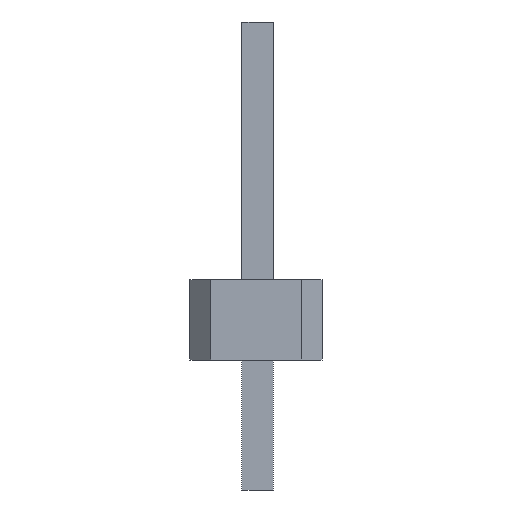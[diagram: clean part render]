
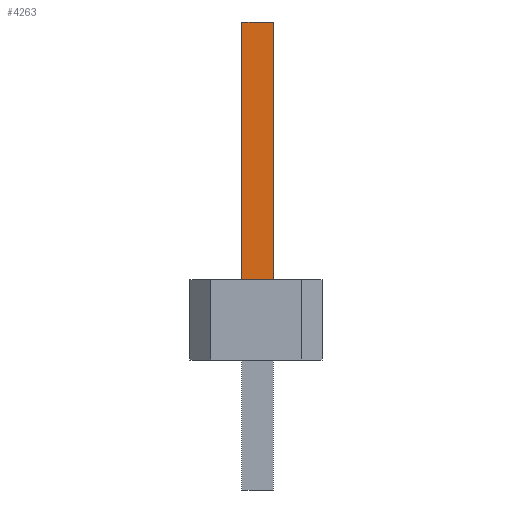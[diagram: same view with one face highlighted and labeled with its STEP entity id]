
A CAD part, front view. The second image highlights one B-rep face of the part: STEP entity #4263.
In plain terms, the highlighted planar face has unit normal (0, -1, 0).
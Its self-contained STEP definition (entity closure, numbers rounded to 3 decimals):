
#4199 = VERTEX_POINT('',#4200);
#4200 = CARTESIAN_POINT('',(-0.27,-0.27,1.54));
#4215 = VERTEX_POINT('',#4216);
#4216 = CARTESIAN_POINT('',(0.33,-0.27,1.54));
#4222 = EDGE_CURVE('',#4199,#4215,#4223,.T.);
#4223 = LINE('',#4224,#4225);
#4224 = CARTESIAN_POINT('',(-0.77,-0.27,1.54));
#4225 = VECTOR('',#4226,1.);
#4226 = DIRECTION('',(1.,0.,0.));
#4236 = EDGE_CURVE('',#4199,#4237,#4239,.T.);
#4237 = VERTEX_POINT('',#4238);
#4238 = CARTESIAN_POINT('',(-0.27,-0.27,6.5));
#4239 = LINE('',#4240,#4241);
#4240 = CARTESIAN_POINT('',(-0.27,-0.27,-2.5));
#4241 = VECTOR('',#4242,1.);
#4242 = DIRECTION('',(0.,0.,1.));
#4263 = ADVANCED_FACE('',(#4264),#4282,.F.);
#4264 = FACE_BOUND('',#4265,.F.);
#4265 = EDGE_LOOP('',(#4266,#4274,#4275,#4276));
#4266 = ORIENTED_EDGE('',*,*,#4267,.F.);
#4267 = EDGE_CURVE('',#4215,#4268,#4270,.T.);
#4268 = VERTEX_POINT('',#4269);
#4269 = CARTESIAN_POINT('',(0.33,-0.27,6.5));
#4270 = LINE('',#4271,#4272);
#4271 = CARTESIAN_POINT('',(0.33,-0.27,-2.5));
#4272 = VECTOR('',#4273,1.);
#4273 = DIRECTION('',(0.,0.,1.));
#4274 = ORIENTED_EDGE('',*,*,#4222,.F.);
#4275 = ORIENTED_EDGE('',*,*,#4236,.T.);
#4276 = ORIENTED_EDGE('',*,*,#4277,.T.);
#4277 = EDGE_CURVE('',#4237,#4268,#4278,.T.);
#4278 = LINE('',#4279,#4280);
#4279 = CARTESIAN_POINT('',(-0.27,-0.27,6.5));
#4280 = VECTOR('',#4281,1.);
#4281 = DIRECTION('',(1.,0.,0.));
#4282 = PLANE('',#4283);
#4283 = AXIS2_PLACEMENT_3D('',#4284,#4285,#4286);
#4284 = CARTESIAN_POINT('',(-0.27,-0.27,-2.5));
#4285 = DIRECTION('',(0.,1.,0.));
#4286 = DIRECTION('',(0.,-0.,1.));
